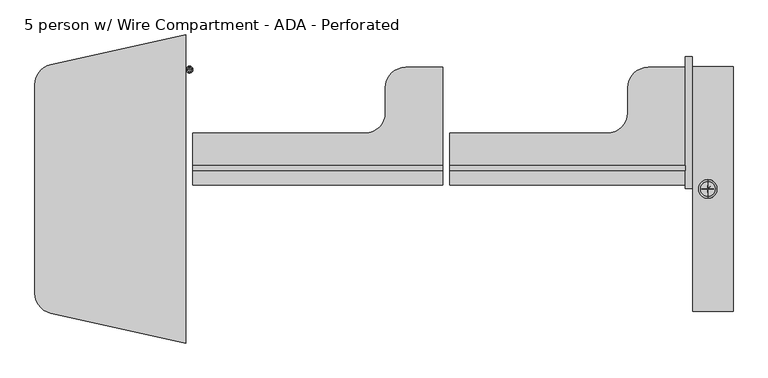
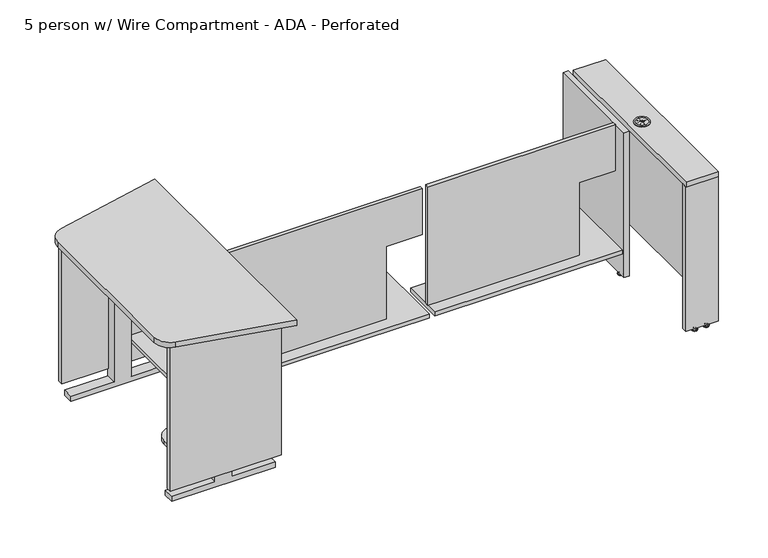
"""IFC4 building model written with IfcOpenShell, lengths in millimetres: furniture geometry, Nova Solutions - Collaboration Table - Boat_4-6 person : 5 person w/ Wire Compartment - ADA - Perforated."""

from ifc_helpers import new_model, si_unit, point, frame, frame_2d, origin, place, context, project, spatial, polyline, circle_curve, ellipse_curve, trimmed, segment, composite_curve, outline, extrude, source, transform, mapped, element, save
from ifc_brep_helpers import plane_surface, cylinder_surface, revolved_surface, advanced_brep


def furniture_5_person_w_wire_compartment_ada_perforated_2b3411b6(model_context):
    return source(origin(), model_context, "Body", "SolidModel", [
        extrude(outline(polyline([(0.0, -999.3498676), (25.4, -999.3498676), (25.4, -1203.2998676), (671.5176566, -1203.2998676), (671.5176566, -1283.2998676), (25.4, -1283.2998676), (25.4, -1487.2498676), (0.0, -1487.2498676), (0.0, -999.3498676)])), frame((0.0, 385.9, 0.0), z_axis=(0.0, 1.0, 0.0), x_axis=(0.0, 0.0, 1.0)), (0.0, 0.0, 1.0), 50.8),
        extrude(outline(polyline([(0.0, -999.3498676), (25.4, -999.3498676), (25.4, -1203.2998676), (671.5176566, -1203.2998676), (671.5176566, -1283.2998676), (25.4, -1283.2998676), (25.4, -1487.2498676), (0.0, -1487.2498676), (0.0, -999.3498676)])), frame((0.0, -436.7, 0.0), z_axis=(0.0, 1.0, 0.0), x_axis=(0.0, 0.0, 1.0)), (0.0, 0.0, 1.0), 50.8),
        extrude(outline(polyline([(430.1, 787.1), (430.1, 196.3), (-259.1, 196.3), (-259.1, 558.2), (-430.1, 558.2), (-430.1, 787.1), (430.1, 787.1)])), frame((-1069.3498676, 0.0, 0.0), z_axis=(1.0, 0.0, 0.0), x_axis=(0.0, 1.0, 0.0)), (0.0, 0.0, 1.0), 19.2),
        extrude(outline(composite_curve([segment(polyline([(-994.8498676, 430.1), (-994.8498676, -430.1), (-1438.0123676, -430.1), (-1438.0123676, -290.3)]), True, "CONTINUOUS"), segment(trimmed(circle_curve(frame_2d((-1361.8123676, -290.3)), 76.2), [point((-1438.0123676, -290.3))], [point((-1361.8123676, -214.1))], False, "CARTESIAN"), True, "CONTINUOUS"), segment(polyline([(-1361.8123676, -214.1), (-1267.3498676, -214.1)]), True, "CONTINUOUS"), segment(trimmed(circle_curve(frame_2d((-1267.3498676, -137.9)), 76.2), [point((-1267.3498676, -214.1))], [point((-1191.1498676, -137.9))], True, "CARTESIAN"), True, "CONTINUOUS"), segment(polyline([(-1191.1498676, -137.9), (-1191.1498676, 430.1), (-994.8498676, 430.1)]), True, "CONTINUOUS")], self_intersect=False)), frame((0.0, 0.0, 177.1), z_axis=(0.0, 0.0, 1.0), x_axis=(1.0, 0.0, 0.0)), (0.0, 0.0, 1.0), 19.2),
        extrude(outline(polyline([(-982.1498676, 455.8), (-982.1498676, 430.1), (-1504.4498676, 430.1), (-1504.4498676, 455.8), (-982.1498676, 455.8)])), frame((0.0, 0.0, 66.4), z_axis=(0.0, 0.0, 1.0), x_axis=(1.0, 0.0, 0.0)), (0.0, 0.0, 1.0), 720.7),
        extrude(outline(polyline([(-982.1498676, -455.8), (-1504.4498676, -455.8), (-1504.4498676, -430.1), (-982.1498676, -430.1), (-982.1498676, -455.8)])), frame((0.0, 0.0, 66.4), z_axis=(0.0, 0.0, 1.0), x_axis=(1.0, 0.0, 0.0)), (0.0, 0.0, 1.0), 720.7),
        extrude(outline(composite_curve([segment(polyline([(-979.2498676, 579.5), (-979.2498676, -579.5), (-1484.9157179, -467.3965799)]), True, "CONTINUOUS"), segment(trimmed(circle_curve(frame_2d((-1468.2498676, -392.2217874)), 77.0), [point((-1484.9157179, -467.3965799))], [point((-1545.2498676, -392.2217874))], False, "CARTESIAN"), True, "CONTINUOUS"), segment(polyline([(-1545.2498676, -392.2217874), (-1545.2498676, 392.2217874)]), True, "CONTINUOUS"), segment(trimmed(circle_curve(frame_2d((-1468.2498676, 392.2217874)), 77.0), [point((-1545.2498676, 392.2217874))], [point((-1484.9157179, 467.3965799))], False, "CARTESIAN"), True, "CONTINUOUS"), segment(polyline([(-1484.9157179, 467.3965799), (-979.2498676, 579.5)]), True, "CONTINUOUS")], self_intersect=False)), frame((0.0, 0.0, 787.1), z_axis=(0.0, 0.0, 1.0), x_axis=(1.0, 0.0, 0.0)), (0.0, 0.0, 1.0), 25.7),
        advanced_brep(
        [(981.65, -34.925, 762.0), (981.65, 34.925, 762.0), (981.65, 24.6435157, 762.0), (980.503542, 2.7677944, 762.0), (964.2244029, 17.4255971, 762.0), (978.8822056, 1.146458, 762.0), (957.0064843, 0.0, 762.0), (978.8822056, -1.146458, 762.0), (964.2244029, -17.4255971, 762.0), (980.503542, -2.7677944, 762.0), (981.65, -24.6435157, 762.0), (982.796458, -2.7677944, 762.0), (999.0755971, -17.4255971, 762.0), (984.4177944, -1.146458, 762.0), (1006.2935157, 0.0, 762.0), (984.4177944, 1.146458, 762.0), (999.0755971, 17.4255971, 762.0), (982.796458, 2.7677944, 762.0), (981.65, -34.925, 763.3787817), (981.65, 34.925, 763.3787817), (981.65, -28.7119174, 765.175), (981.65, 28.7119174, 765.175), (981.65, -24.6435157, 765.175), (980.503542, -2.7677944, 765.175), (964.2244029, -17.4255971, 765.175), (978.8822056, -1.146458, 765.175), (957.0064843, 0.0, 765.175), (978.8822056, 1.146458, 765.175), (964.2244029, 17.4255971, 765.175), (980.503542, 2.7677944, 765.175), (981.65, 24.6435157, 765.175), (982.796458, 2.7677944, 765.175), (999.0755971, 17.4255971, 765.175), (984.4177944, 1.146458, 765.175), (1006.2935157, 0.0, 765.175), (984.4177944, -1.146458, 765.175), (999.0755971, -17.4255971, 765.175), (982.796458, -2.7677944, 765.175)],
        [
            (0, 1, circle_curve(frame((981.65, 0.0, 762.0), z_axis=(0.0, 0.0, -1.0), x_axis=(0.0, 1.0, 0.0)), 34.925)),
            (1, 2),
            (2, 3),
            (3, 4),
            (4, 5),
            (5, 6),
            (6, 7),
            (7, 8),
            (8, 9),
            (9, 10),
            (10, 0),
            (1, 0, circle_curve(frame((981.65, 0.0, 762.0), z_axis=(0.0, 0.0, -1.0), x_axis=(0.0, 1.0, 0.0)), 34.925)),
            (10, 11),
            (11, 12),
            (12, 13),
            (13, 14),
            (14, 15),
            (15, 16),
            (16, 17),
            (17, 2),
            (0, 18),
            (18, 19, circle_curve(frame((981.65, 0.0, 763.3787817), z_axis=(0.0, 0.0, -1.0), x_axis=(0.0, 1.0, 0.0)), 34.925)),
            (19, 1),
            (19, 18, circle_curve(frame((981.65, 0.0, 763.3787817), z_axis=(0.0, 0.0, -1.0), x_axis=(0.0, 1.0, 0.0)), 34.925)),
            (18, 20, circle_curve(frame((981.65, -31.558813, 763.3787817), z_axis=(-1.0, 0.0, 0.0), x_axis=(0.0, -1.0, 0.0)), 3.366187)),
            (20, 21, circle_curve(frame((981.65, 0.0, 765.175), z_axis=(0.0, 0.0, -1.0), x_axis=(0.0, 1.0, 0.0)), 28.7119174)),
            (21, 19, circle_curve(frame((981.65, 31.558813, 763.3787817), z_axis=(-1.0, 0.0, 0.0), x_axis=(0.0, 1.0, 0.0)), 3.366187)),
            (21, 20, circle_curve(frame((981.65, 0.0, 765.175), z_axis=(0.0, 0.0, -1.0), x_axis=(0.0, 1.0, 0.0)), 28.7119174)),
            (20, 22),
            (22, 23),
            (23, 24),
            (24, 25),
            (25, 26),
            (26, 27),
            (27, 28),
            (28, 29),
            (29, 30),
            (30, 21),
            (30, 31),
            (31, 32),
            (32, 33),
            (33, 34),
            (34, 35),
            (35, 36),
            (36, 37),
            (37, 22),
            (26, 6),
            (5, 27),
            (25, 7),
            (24, 8),
            (23, 9),
            (22, 10),
            (37, 11),
            (36, 12),
            (35, 13),
            (34, 14),
            (33, 15),
            (32, 16),
            (31, 17),
            (30, 2),
            (29, 3),
            (28, 4),
        ],
        [
            plane_surface(frame((981.65, 0.0, 762.0), z_axis=(0.0, 0.0, -1.0), x_axis=(0.0, 1.0, 0.0))),
            cylinder_surface(frame((981.65, 0.0, 850.9), z_axis=(0.0, 0.0, 1.0), x_axis=(0.0, 1.0, 0.0)), 34.925),
            revolved_surface(trimmed(ellipse_curve(frame((981.65, 31.558813, 763.3787817), z_axis=(1.0, 0.0, 0.0), x_axis=(0.0, 1.0, 0.0)), 3.366187, 3.366187), [point((981.65, 34.925, 763.3787817))], [point((981.65, 28.7119174, 765.175))], True, "CARTESIAN"), (981.65, 0.0, 850.9), (0.0, 0.0, 1.0)),
            plane_surface(frame((981.65, 0.0, 765.175), z_axis=(0.0, 0.0, 1.0), x_axis=(0.0, 1.0, 0.0))),
            plane_surface(frame((981.65, 1.2915119, 787.4), z_axis=(0.05233595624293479, -0.9986295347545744, 0.0), x_axis=(0.0, 0.0, -1.0))),
            plane_surface(frame((957.0064843, 0.0, 787.4), z_axis=(0.052335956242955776, 0.9986295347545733, 0.0), x_axis=(0.0, 0.0, -1.0))),
            plane_surface(frame((980.7367632, 0.9132368, 787.4), z_axis=(0.7431448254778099, -0.6691306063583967, 0.0), x_axis=(0.0, 0.0, -1.0))),
            plane_surface(frame((964.2244029, -17.4255971, 787.4), z_axis=(-0.6691306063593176, 0.7431448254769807, 0.0), x_axis=(0.0, 0.0, -1.0))),
            plane_surface(frame((980.3584881, 0.0, 787.4), z_axis=(0.9986295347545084, 0.05233595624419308, 0.0), x_axis=(0.0, 0.0, -1.0))),
            plane_surface(frame((981.65, -24.6435157, 787.4), z_axis=(-0.9986295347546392, 0.05233595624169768, 0.0), x_axis=(0.0, 0.0, -1.0))),
            plane_surface(frame((980.7367632, -0.9132368, 787.4), z_axis=(0.6691306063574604, 0.743144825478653, 0.0), x_axis=(0.0, 0.0, -1.0))),
            plane_surface(frame((999.0755971, -17.4255971, 787.4), z_axis=(-0.7431448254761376, -0.669130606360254, 0.0), x_axis=(0.0, 0.0, -1.0))),
            plane_surface(frame((981.65, -1.2915119, 787.4), z_axis=(-0.052335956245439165, 0.9986295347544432, 0.0), x_axis=(0.0, 0.0, -1.0))),
            plane_surface(frame((1006.2935157, 0.0, 787.4), z_axis=(-0.05233595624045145, -0.9986295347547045, 0.0), x_axis=(0.0, 0.0, -1.0))),
            plane_surface(frame((982.5632368, -0.9132368, 787.4), z_axis=(-0.7431448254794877, 0.6691306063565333, 0.0), x_axis=(0.0, 0.0, -1.0))),
            plane_surface(frame((999.0755971, 17.4255971, 787.4), z_axis=(0.669130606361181, -0.7431448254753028, 0.0), x_axis=(0.0, 0.0, -1.0))),
            plane_surface(frame((982.9415119, 0.0, 787.4), z_axis=(-0.9986295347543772, -0.05233595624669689, 0.0), x_axis=(0.0, 0.0, -1.0))),
            plane_surface(frame((981.65, 24.6435157, 787.4), z_axis=(0.9986295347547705, -0.05233595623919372, 0.0), x_axis=(0.0, 0.0, -1.0))),
            plane_surface(frame((982.5632368, 0.9132368, 787.4), z_axis=(-0.6691306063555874, -0.7431448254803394, 0.0), x_axis=(0.0, 0.0, -1.0))),
            plane_surface(frame((964.2244029, 17.4255971, 787.4), z_axis=(0.743144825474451, 0.669130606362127, 0.0), x_axis=(0.0, 0.0, -1.0))),
        ],
        [
            (0, [[1, 2, 3, 4, 5, 6, 7, 8, 9, 10, 11]]),
            (0, [[12, -11, 13, 14, 15, 16, 17, 18, 19, 20, -2]]),
            (1, [[-1, 21, 22, 23]]),
            (1, [[-12, -23, 24, -21]]),
            (2, [[-22, 25, 26, 27]]),
            (2, [[-24, -27, 28, -25]]),
            (3, [[-26, 29, 30, 31, 32, 33, 34, 35, 36, 37, 38]]),
            (3, [[-28, -38, 39, 40, 41, 42, 43, 44, 45, 46, -29]]),
            (4, [[47, -6, 48, -34]]),
            (5, [[-47, -33, 49, -7]]),
            (6, [[50, -8, -49, -32]]),
            (7, [[-50, -31, 51, -9]]),
            (8, [[52, -10, -51, -30]]),
            (9, [[-52, -46, 53, -13]]),
            (10, [[54, -14, -53, -45]]),
            (11, [[-54, -44, 55, -15]]),
            (12, [[56, -16, -55, -43]]),
            (13, [[-56, -42, 57, -17]]),
            (14, [[58, -18, -57, -41]]),
            (15, [[-58, -40, 59, -19]]),
            (16, [[60, -20, -59, -39]]),
            (17, [[-60, -37, 61, -3]]),
            (18, [[62, -4, -61, -36]]),
            (19, [[-62, -35, -48, -5]]),
        ],
    ),
        advanced_brep(
        [(1027.6359375, 451.0276506, 11.1125), (1027.6359375, 437.6723494, 11.1125), (1027.6359375, 444.35, 11.1125), (1027.6359375, 451.0276506, 9.525), (1027.6359375, 437.6723494, 9.525), (1027.6359375, 456.2355135, 4.7748687), (1027.6359375, 432.4644865, 4.7748687), (1027.6359375, 457.0966506, 3.989419), (1027.6359375, 431.6033494, 3.989419), (1027.6359375, 457.0966506, 3.175), (1027.6359375, 431.6033494, 3.175), (1027.6359375, 456.2459119, 0.0), (1027.6359375, 432.4540881, 0.0), (1027.6359375, 444.35, 0.0)],
        [
            (0, 1, circle_curve(frame((1027.6359375, 444.35, 11.1125), z_axis=(0.0, 0.0, 1.0), x_axis=(0.0, -1.0, 0.0)), 6.6776506)),
            (1, 2),
            (2, 0),
            (1, 0, circle_curve(frame((1027.6359375, 444.35, 11.1125), z_axis=(0.0, 0.0, 1.0), x_axis=(0.0, -1.0, 0.0)), 6.6776506)),
            (3, 4, circle_curve(frame((1027.6359375, 444.35, 9.525), z_axis=(0.0, 0.0, 1.0), x_axis=(0.0, -1.0, 0.0)), 6.6776506)),
            (4, 1),
            (0, 3),
            (4, 3, circle_curve(frame((1027.6359375, 444.35, 9.525), z_axis=(0.0, 0.0, 1.0), x_axis=(0.0, -1.0, 0.0)), 6.6776506)),
            (5, 6, circle_curve(frame((1027.6359375, 444.35, 4.7748687), z_axis=(0.0, 0.0, 1.0), x_axis=(0.0, -1.0, 0.0)), 11.8855135)),
            (6, 4, circle_curve(frame((1027.6359375, 431.4179373, 11.1521822), z_axis=(1.0, 0.0, 0.0), x_axis=(0.0, 1.0, 0.0)), 6.462615)),
            (3, 5, circle_curve(frame((1027.6359375, 457.2820627, 11.1521822), z_axis=(1.0, 0.0, 0.0), x_axis=(0.0, -1.0, 0.0)), 6.462615)),
            (6, 5, circle_curve(frame((1027.6359375, 444.35, 4.7748687), z_axis=(0.0, 0.0, 1.0), x_axis=(0.0, -1.0, 0.0)), 11.8855135)),
            (7, 8, circle_curve(frame((1027.6359375, 444.35, 3.989419), z_axis=(0.0, 0.0, 1.0), x_axis=(0.0, -1.0, 0.0)), 12.7466506)),
            (8, 6, circle_curve(frame((1027.6359375, 432.6375368, 3.7203591), z_axis=(-1.0, 0.0, 0.0), x_axis=(0.0, 1.0, 0.0)), 1.0686145)),
            (5, 7, circle_curve(frame((1027.6359375, 456.0624632, 3.7203591), z_axis=(-1.0, 0.0, 0.0), x_axis=(0.0, -1.0, 0.0)), 1.0686145)),
            (8, 7, circle_curve(frame((1027.6359375, 444.35, 3.989419), z_axis=(0.0, 0.0, 1.0), x_axis=(0.0, -1.0, 0.0)), 12.7466506)),
            (9, 10, circle_curve(frame((1027.6359375, 444.35, 3.175), z_axis=(0.0, 0.0, 1.0), x_axis=(0.0, -1.0, 0.0)), 12.7466506)),
            (10, 8),
            (7, 9),
            (10, 9, circle_curve(frame((1027.6359375, 444.35, 3.175), z_axis=(0.0, 0.0, 1.0), x_axis=(0.0, -1.0, 0.0)), 12.7466506)),
            (11, 12, circle_curve(frame((1027.6359375, 444.35, 0.0), z_axis=(0.0, 0.0, 1.0), x_axis=(0.0, -1.0, 0.0)), 11.8959119)),
            (12, 10),
            (9, 11),
            (12, 11, circle_curve(frame((1027.6359375, 444.35, 0.0), z_axis=(0.0, 0.0, 1.0), x_axis=(0.0, -1.0, 0.0)), 11.8959119)),
            (13, 12),
            (11, 13),
        ],
        [
            plane_surface(frame((1027.6359375, 444.35, 11.1125), z_axis=(0.0, 0.0, 1.0), x_axis=(0.0, -1.0, 0.0))),
            cylinder_surface(frame((1027.6359375, 444.35, 43.2095994), z_axis=(0.0, 0.0, -1.0), x_axis=(0.0, -1.0, 0.0)), 6.6776506),
            revolved_surface(trimmed(ellipse_curve(frame((1027.6359375, 431.4179373, 11.1521822), z_axis=(-1.0, 0.0, 0.0), x_axis=(0.0, 1.0, 0.0)), 6.462615, 6.462615), [point((1027.6359375, 437.6723494, 9.525))], [point((1027.6359375, 432.4644865, 4.7748687))], True, "CARTESIAN"), (1027.6359375, 444.35, 43.2095994), (0.0, 0.0, -1.0)),
            revolved_surface(trimmed(ellipse_curve(frame((1027.6359375, 432.6375368, 3.7203591), z_axis=(1.0, 0.0, 0.0), x_axis=(0.0, 1.0, 0.0)), 1.0686145, 1.0686145), [point((1027.6359375, 432.4644865, 4.7748687))], [point((1027.6359375, 431.6033494, 3.989419))], True, "CARTESIAN"), (1027.6359375, 444.35, 43.2095994), (0.0, 0.0, -1.0)),
            cylinder_surface(frame((1027.6359375, 444.35, 43.2095994), z_axis=(0.0, 0.0, -1.0), x_axis=(0.0, -1.0, 0.0)), 12.7466506),
            revolved_surface(polyline([(1027.6359375, 431.6033494, 3.175), (1027.6359375, 432.4540881, 0.0)]), (1027.6359375, 444.35, 43.2095994), (0.0, 0.0, -1.0)),
            plane_surface(frame((1027.6359375, 444.35, 0.0), z_axis=(0.0, 0.0, -1.0), x_axis=(0.0, -1.0, 0.0))),
        ],
        [
            (0, [[1, 2, 3]]),
            (0, [[4, -3, -2]]),
            (1, [[5, 6, -1, 7]]),
            (1, [[8, -7, -4, -6]]),
            (2, [[9, 10, -5, 11]]),
            (2, [[12, -11, -8, -10]]),
            (3, [[13, 14, -9, 15]]),
            (3, [[16, -15, -12, -14]]),
            (4, [[17, 18, -13, 19]]),
            (4, [[20, -19, -16, -18]]),
            (5, [[21, 22, -17, 23]]),
            (5, [[24, -23, -20, -22]]),
            (6, [[25, -21, 26]]),
            (6, [[-26, -24, -25]]),
        ],
    ),
        advanced_brep(
        [(973.2640625, 451.0276506, 11.1125), (973.2640625, 437.6723494, 11.1125), (973.2640625, 444.35, 11.1125), (973.2640625, 451.0276506, 9.525), (973.2640625, 437.6723494, 9.525), (973.2640625, 456.2355135, 4.7748687), (973.2640625, 432.4644865, 4.7748687), (973.2640625, 457.0966506, 3.989419), (973.2640625, 431.6033494, 3.989419), (973.2640625, 457.0966506, 3.175), (973.2640625, 431.6033494, 3.175), (973.2640625, 456.2459119, 0.0), (973.2640625, 432.4540881, 0.0), (973.2640625, 444.35, 0.0)],
        [
            (0, 1, circle_curve(frame((973.2640625, 444.35, 11.1125), z_axis=(0.0, 0.0, 1.0), x_axis=(0.0, -1.0, 0.0)), 6.6776506)),
            (1, 2),
            (2, 0),
            (1, 0, circle_curve(frame((973.2640625, 444.35, 11.1125), z_axis=(0.0, 0.0, 1.0), x_axis=(0.0, -1.0, 0.0)), 6.6776506)),
            (3, 4, circle_curve(frame((973.2640625, 444.35, 9.525), z_axis=(0.0, 0.0, 1.0), x_axis=(0.0, -1.0, 0.0)), 6.6776506)),
            (4, 1),
            (0, 3),
            (4, 3, circle_curve(frame((973.2640625, 444.35, 9.525), z_axis=(0.0, 0.0, 1.0), x_axis=(0.0, -1.0, 0.0)), 6.6776506)),
            (5, 6, circle_curve(frame((973.2640625, 444.35, 4.7748687), z_axis=(0.0, 0.0, 1.0), x_axis=(0.0, -1.0, 0.0)), 11.8855135)),
            (6, 4, circle_curve(frame((973.2640625, 431.4179373, 11.1521822), z_axis=(1.0, 0.0, 0.0), x_axis=(0.0, 1.0, 0.0)), 6.462615)),
            (3, 5, circle_curve(frame((973.2640625, 457.2820627, 11.1521822), z_axis=(1.0, 0.0, 0.0), x_axis=(0.0, -1.0, 0.0)), 6.462615)),
            (6, 5, circle_curve(frame((973.2640625, 444.35, 4.7748687), z_axis=(0.0, 0.0, 1.0), x_axis=(0.0, -1.0, 0.0)), 11.8855135)),
            (7, 8, circle_curve(frame((973.2640625, 444.35, 3.989419), z_axis=(0.0, 0.0, 1.0), x_axis=(0.0, -1.0, 0.0)), 12.7466506)),
            (8, 6, circle_curve(frame((973.2640625, 432.6375368, 3.7203591), z_axis=(-1.0, 0.0, 0.0), x_axis=(0.0, 1.0, 0.0)), 1.0686145)),
            (5, 7, circle_curve(frame((973.2640625, 456.0624632, 3.7203591), z_axis=(-1.0, 0.0, 0.0), x_axis=(0.0, -1.0, 0.0)), 1.0686145)),
            (8, 7, circle_curve(frame((973.2640625, 444.35, 3.989419), z_axis=(0.0, 0.0, 1.0), x_axis=(0.0, -1.0, 0.0)), 12.7466506)),
            (9, 10, circle_curve(frame((973.2640625, 444.35, 3.175), z_axis=(0.0, 0.0, 1.0), x_axis=(0.0, -1.0, 0.0)), 12.7466506)),
            (10, 8),
            (7, 9),
            (10, 9, circle_curve(frame((973.2640625, 444.35, 3.175), z_axis=(0.0, 0.0, 1.0), x_axis=(0.0, -1.0, 0.0)), 12.7466506)),
            (11, 12, circle_curve(frame((973.2640625, 444.35, 0.0), z_axis=(0.0, 0.0, 1.0), x_axis=(0.0, -1.0, 0.0)), 11.8959119)),
            (12, 10),
            (9, 11),
            (12, 11, circle_curve(frame((973.2640625, 444.35, 0.0), z_axis=(0.0, 0.0, 1.0), x_axis=(0.0, -1.0, 0.0)), 11.8959119)),
            (13, 12),
            (11, 13),
        ],
        [
            plane_surface(frame((973.2640625, 444.35, 11.1125), z_axis=(0.0, 0.0, 1.0), x_axis=(0.0, -1.0, 0.0))),
            cylinder_surface(frame((973.2640625, 444.35, 43.2095994), z_axis=(0.0, 0.0, -1.0), x_axis=(0.0, -1.0, 0.0)), 6.6776506),
            revolved_surface(trimmed(ellipse_curve(frame((973.2640625, 431.4179373, 11.1521822), z_axis=(-1.0, 0.0, 0.0), x_axis=(0.0, 1.0, 0.0)), 6.462615, 6.462615), [point((973.2640625, 437.6723494, 9.525))], [point((973.2640625, 432.4644865, 4.7748687))], True, "CARTESIAN"), (973.2640625, 444.35, 43.2095994), (0.0, 0.0, -1.0)),
            revolved_surface(trimmed(ellipse_curve(frame((973.2640625, 432.6375368, 3.7203591), z_axis=(1.0, 0.0, 0.0), x_axis=(0.0, 1.0, 0.0)), 1.0686145, 1.0686145), [point((973.2640625, 432.4644865, 4.7748687))], [point((973.2640625, 431.6033494, 3.989419))], True, "CARTESIAN"), (973.2640625, 444.35, 43.2095994), (0.0, 0.0, -1.0)),
            cylinder_surface(frame((973.2640625, 444.35, 43.2095994), z_axis=(0.0, 0.0, -1.0), x_axis=(0.0, -1.0, 0.0)), 12.7466506),
            revolved_surface(polyline([(973.2640625, 431.6033494, 3.175), (973.2640625, 432.4540881, 0.0)]), (973.2640625, 444.35, 43.2095994), (0.0, 0.0, -1.0)),
            plane_surface(frame((973.2640625, 444.35, 0.0), z_axis=(0.0, 0.0, -1.0), x_axis=(0.0, -1.0, 0.0))),
        ],
        [
            (0, [[1, 2, 3]]),
            (0, [[4, -3, -2]]),
            (1, [[5, 6, -1, 7]]),
            (1, [[8, -7, -4, -6]]),
            (2, [[9, 10, -5, 11]]),
            (2, [[12, -11, -8, -10]]),
            (3, [[13, 14, -9, 15]]),
            (3, [[16, -15, -12, -14]]),
            (4, [[17, 18, -13, 19]]),
            (4, [[20, -19, -16, -18]]),
            (5, [[21, 22, -17, 23]]),
            (5, [[24, -23, -20, -22]]),
            (6, [[25, -21, 26]]),
            (6, [[-26, -24, -25]]),
        ],
    ),
        extrude(outline(polyline([(924.25, 457.2), (1076.65, 457.2), (1076.65, 431.5), (924.25, 431.5), (924.25, 457.2)])), frame((0.0, 0.0, 15.6), z_axis=(0.0, 0.0, 1.0), x_axis=(1.0, 0.0, 0.0)), (0.0, 0.0, 1.0), 720.7),
        advanced_brep(
        [(1027.6359375, -451.0276506, 11.1125), (1027.6359375, -444.35, 11.1125), (1027.6359375, -437.6723494, 11.1125), (1027.6359375, -451.0276506, 9.525), (1027.6359375, -437.6723494, 9.525), (1027.6359375, -456.2355135, 4.7748687), (1027.6359375, -432.4644865, 4.7748687), (1027.6359375, -457.0966506, 3.989419), (1027.6359375, -431.6033494, 3.989419), (1027.6359375, -457.0966506, 3.175), (1027.6359375, -431.6033494, 3.175), (1027.6359375, -456.2459119, 0.0), (1027.6359375, -432.4540881, 0.0), (1027.6359375, -444.35, 0.0)],
        [
            (0, 1),
            (1, 2),
            (2, 0, circle_curve(frame((1027.6359375, -444.35, 11.1125), z_axis=(0.0, 0.0, 1.0), x_axis=(0.0, 1.0, 0.0)), 6.6776506)),
            (0, 2, circle_curve(frame((1027.6359375, -444.35, 11.1125), z_axis=(0.0, 0.0, 1.0), x_axis=(0.0, 1.0, 0.0)), 6.6776506)),
            (3, 0),
            (2, 4),
            (4, 3, circle_curve(frame((1027.6359375, -444.35, 9.525), z_axis=(0.0, 0.0, 1.0), x_axis=(0.0, 1.0, 0.0)), 6.6776506)),
            (3, 4, circle_curve(frame((1027.6359375, -444.35, 9.525), z_axis=(0.0, 0.0, 1.0), x_axis=(0.0, 1.0, 0.0)), 6.6776506)),
            (5, 3, circle_curve(frame((1027.6359375, -457.2820627, 11.1521822), z_axis=(1.0, 0.0, 0.0), x_axis=(0.0, 1.0, 0.0)), 6.462615)),
            (4, 6, circle_curve(frame((1027.6359375, -431.4179373, 11.1521822), z_axis=(1.0, 0.0, 0.0), x_axis=(0.0, -1.0, 0.0)), 6.462615)),
            (6, 5, circle_curve(frame((1027.6359375, -444.35, 4.7748687), z_axis=(0.0, 0.0, 1.0), x_axis=(0.0, 1.0, 0.0)), 11.8855135)),
            (5, 6, circle_curve(frame((1027.6359375, -444.35, 4.7748687), z_axis=(0.0, 0.0, 1.0), x_axis=(0.0, 1.0, 0.0)), 11.8855135)),
            (7, 5, circle_curve(frame((1027.6359375, -456.0624632, 3.7203591), z_axis=(-1.0, 0.0, 0.0), x_axis=(0.0, 1.0, 0.0)), 1.0686145)),
            (6, 8, circle_curve(frame((1027.6359375, -432.6375368, 3.7203591), z_axis=(-1.0, 0.0, 0.0), x_axis=(0.0, -1.0, 0.0)), 1.0686145)),
            (8, 7, circle_curve(frame((1027.6359375, -444.35, 3.989419), z_axis=(0.0, 0.0, 1.0), x_axis=(0.0, 1.0, 0.0)), 12.7466506)),
            (7, 8, circle_curve(frame((1027.6359375, -444.35, 3.989419), z_axis=(0.0, 0.0, 1.0), x_axis=(0.0, 1.0, 0.0)), 12.7466506)),
            (9, 7),
            (8, 10),
            (10, 9, circle_curve(frame((1027.6359375, -444.35, 3.175), z_axis=(0.0, 0.0, 1.0), x_axis=(0.0, 1.0, 0.0)), 12.7466506)),
            (9, 10, circle_curve(frame((1027.6359375, -444.35, 3.175), z_axis=(0.0, 0.0, 1.0), x_axis=(0.0, 1.0, 0.0)), 12.7466506)),
            (11, 9),
            (10, 12),
            (12, 11, circle_curve(frame((1027.6359375, -444.35, 0.0), z_axis=(0.0, 0.0, 1.0), x_axis=(0.0, 1.0, 0.0)), 11.8959119)),
            (11, 12, circle_curve(frame((1027.6359375, -444.35, 0.0), z_axis=(0.0, 0.0, 1.0), x_axis=(0.0, 1.0, 0.0)), 11.8959119)),
            (13, 11),
            (12, 13),
        ],
        [
            plane_surface(frame((1027.6359375, -444.35, 11.1125), z_axis=(0.0, 0.0, 1.0), x_axis=(0.0, 1.0, 0.0))),
            cylinder_surface(frame((1027.6359375, -444.35, 43.2095994), z_axis=(0.0, 0.0, -1.0), x_axis=(0.0, 1.0, 0.0)), 6.6776506),
            revolved_surface(trimmed(ellipse_curve(frame((1027.6359375, -431.4179373, 11.1521822), z_axis=(1.0, 0.0, 0.0), x_axis=(0.0, -1.0, 0.0)), 6.462615, 6.462615), [point((1027.6359375, -437.6723494, 9.525))], [point((1027.6359375, -432.4644865, 4.7748687))], True, "CARTESIAN"), (1027.6359375, -444.35, 43.2095994), (0.0, 0.0, -1.0)),
            revolved_surface(trimmed(ellipse_curve(frame((1027.6359375, -432.6375368, 3.7203591), z_axis=(-1.0, 0.0, 0.0), x_axis=(0.0, -1.0, 0.0)), 1.0686145, 1.0686145), [point((1027.6359375, -432.4644865, 4.7748687))], [point((1027.6359375, -431.6033494, 3.989419))], True, "CARTESIAN"), (1027.6359375, -444.35, 43.2095994), (0.0, 0.0, -1.0)),
            cylinder_surface(frame((1027.6359375, -444.35, 43.2095994), z_axis=(0.0, 0.0, -1.0), x_axis=(0.0, 1.0, 0.0)), 12.7466506),
            revolved_surface(polyline([(1027.6359375, -431.6033494, 3.175), (1027.6359375, -432.4540881, 0.0)]), (1027.6359375, -444.35, 43.2095994), (0.0, 0.0, -1.0)),
            plane_surface(frame((1027.6359375, -444.35, 0.0), z_axis=(0.0, 0.0, -1.0), x_axis=(0.0, 1.0, 0.0))),
        ],
        [
            (0, [[1, 2, 3]]),
            (0, [[-2, -1, 4]]),
            (1, [[5, -3, 6, 7]]),
            (1, [[-6, -4, -5, 8]]),
            (2, [[9, -7, 10, 11]]),
            (2, [[-10, -8, -9, 12]]),
            (3, [[13, -11, 14, 15]]),
            (3, [[-14, -12, -13, 16]]),
            (4, [[17, -15, 18, 19]]),
            (4, [[-18, -16, -17, 20]]),
            (5, [[21, -19, 22, 23]]),
            (5, [[-22, -20, -21, 24]]),
            (6, [[25, -23, 26]]),
            (6, [[-26, -24, -25]]),
        ],
    ),
        advanced_brep(
        [(973.2640625, -451.0276506, 11.1125), (973.2640625, -444.35, 11.1125), (973.2640625, -437.6723494, 11.1125), (973.2640625, -451.0276506, 9.525), (973.2640625, -437.6723494, 9.525), (973.2640625, -456.2355135, 4.7748687), (973.2640625, -432.4644865, 4.7748687), (973.2640625, -457.0966506, 3.989419), (973.2640625, -431.6033494, 3.989419), (973.2640625, -457.0966506, 3.175), (973.2640625, -431.6033494, 3.175), (973.2640625, -456.2459119, 0.0), (973.2640625, -432.4540881, 0.0), (973.2640625, -444.35, 0.0)],
        [
            (0, 1),
            (1, 2),
            (2, 0, circle_curve(frame((973.2640625, -444.35, 11.1125), z_axis=(0.0, 0.0, 1.0), x_axis=(0.0, 1.0, 0.0)), 6.6776506)),
            (0, 2, circle_curve(frame((973.2640625, -444.35, 11.1125), z_axis=(0.0, 0.0, 1.0), x_axis=(0.0, 1.0, 0.0)), 6.6776506)),
            (3, 0),
            (2, 4),
            (4, 3, circle_curve(frame((973.2640625, -444.35, 9.525), z_axis=(0.0, 0.0, 1.0), x_axis=(0.0, 1.0, 0.0)), 6.6776506)),
            (3, 4, circle_curve(frame((973.2640625, -444.35, 9.525), z_axis=(0.0, 0.0, 1.0), x_axis=(0.0, 1.0, 0.0)), 6.6776506)),
            (5, 3, circle_curve(frame((973.2640625, -457.2820627, 11.1521822), z_axis=(1.0, 0.0, 0.0), x_axis=(0.0, 1.0, 0.0)), 6.462615)),
            (4, 6, circle_curve(frame((973.2640625, -431.4179373, 11.1521822), z_axis=(1.0, 0.0, 0.0), x_axis=(0.0, -1.0, 0.0)), 6.462615)),
            (6, 5, circle_curve(frame((973.2640625, -444.35, 4.7748687), z_axis=(0.0, 0.0, 1.0), x_axis=(0.0, 1.0, 0.0)), 11.8855135)),
            (5, 6, circle_curve(frame((973.2640625, -444.35, 4.7748687), z_axis=(0.0, 0.0, 1.0), x_axis=(0.0, 1.0, 0.0)), 11.8855135)),
            (7, 5, circle_curve(frame((973.2640625, -456.0624632, 3.7203591), z_axis=(-1.0, 0.0, 0.0), x_axis=(0.0, 1.0, 0.0)), 1.0686145)),
            (6, 8, circle_curve(frame((973.2640625, -432.6375368, 3.7203591), z_axis=(-1.0, 0.0, 0.0), x_axis=(0.0, -1.0, 0.0)), 1.0686145)),
            (8, 7, circle_curve(frame((973.2640625, -444.35, 3.989419), z_axis=(0.0, 0.0, 1.0), x_axis=(0.0, 1.0, 0.0)), 12.7466506)),
            (7, 8, circle_curve(frame((973.2640625, -444.35, 3.989419), z_axis=(0.0, 0.0, 1.0), x_axis=(0.0, 1.0, 0.0)), 12.7466506)),
            (9, 7),
            (8, 10),
            (10, 9, circle_curve(frame((973.2640625, -444.35, 3.175), z_axis=(0.0, 0.0, 1.0), x_axis=(0.0, 1.0, 0.0)), 12.7466506)),
            (9, 10, circle_curve(frame((973.2640625, -444.35, 3.175), z_axis=(0.0, 0.0, 1.0), x_axis=(0.0, 1.0, 0.0)), 12.7466506)),
            (11, 9),
            (10, 12),
            (12, 11, circle_curve(frame((973.2640625, -444.35, 0.0), z_axis=(0.0, 0.0, 1.0), x_axis=(0.0, 1.0, 0.0)), 11.8959119)),
            (11, 12, circle_curve(frame((973.2640625, -444.35, 0.0), z_axis=(0.0, 0.0, 1.0), x_axis=(0.0, 1.0, 0.0)), 11.8959119)),
            (13, 11),
            (12, 13),
        ],
        [
            plane_surface(frame((973.2640625, -444.35, 11.1125), z_axis=(0.0, 0.0, 1.0), x_axis=(0.0, 1.0, 0.0))),
            cylinder_surface(frame((973.2640625, -444.35, 43.2095994), z_axis=(0.0, 0.0, -1.0), x_axis=(0.0, 1.0, 0.0)), 6.6776506),
            revolved_surface(trimmed(ellipse_curve(frame((973.2640625, -431.4179373, 11.1521822), z_axis=(1.0, 0.0, 0.0), x_axis=(0.0, -1.0, 0.0)), 6.462615, 6.462615), [point((973.2640625, -437.6723494, 9.525))], [point((973.2640625, -432.4644865, 4.7748687))], True, "CARTESIAN"), (973.2640625, -444.35, 43.2095994), (0.0, 0.0, -1.0)),
            revolved_surface(trimmed(ellipse_curve(frame((973.2640625, -432.6375368, 3.7203591), z_axis=(-1.0, 0.0, 0.0), x_axis=(0.0, -1.0, 0.0)), 1.0686145, 1.0686145), [point((973.2640625, -432.4644865, 4.7748687))], [point((973.2640625, -431.6033494, 3.989419))], True, "CARTESIAN"), (973.2640625, -444.35, 43.2095994), (0.0, 0.0, -1.0)),
            cylinder_surface(frame((973.2640625, -444.35, 43.2095994), z_axis=(0.0, 0.0, -1.0), x_axis=(0.0, 1.0, 0.0)), 12.7466506),
            revolved_surface(polyline([(973.2640625, -431.6033494, 3.175), (973.2640625, -432.4540881, 0.0)]), (973.2640625, -444.35, 43.2095994), (0.0, 0.0, -1.0)),
            plane_surface(frame((973.2640625, -444.35, 0.0), z_axis=(0.0, 0.0, -1.0), x_axis=(0.0, 1.0, 0.0))),
        ],
        [
            (0, [[1, 2, 3]]),
            (0, [[-2, -1, 4]]),
            (1, [[5, -3, 6, 7]]),
            (1, [[-6, -4, -5, 8]]),
            (2, [[9, -7, 10, 11]]),
            (2, [[-10, -8, -9, 12]]),
            (3, [[13, -11, 14, 15]]),
            (3, [[-14, -12, -13, 16]]),
            (4, [[17, -15, 18, 19]]),
            (4, [[-18, -16, -17, 20]]),
            (5, [[21, -19, 22, 23]]),
            (5, [[-22, -20, -21, 24]]),
            (6, [[25, -23, 26]]),
            (6, [[-26, -24, -25]]),
        ],
    ),
        extrude(outline(polyline([(924.25, -457.2), (924.25, -431.5), (1076.65, -431.5), (1076.65, -457.2), (924.25, -457.2)])), frame((0.0, 0.0, 15.6), z_axis=(0.0, 0.0, 1.0), x_axis=(1.0, 0.0, 0.0)), (0.0, 0.0, 1.0), 720.7),
        extrude(outline(polyline([(1076.07, -431.0), (1057.02, -431.0), (1057.02, 431.0), (1076.07, 431.0), (1076.07, -431.0)])), frame((0.0, 0.0, 85.615), z_axis=(0.0, 0.0, 1.0), x_axis=(1.0, 0.0, 0.0)), (0.0, 0.0, 1.0), 625.285),
        extrude(outline(polyline([(1076.65, 460.1), (1076.65, -460.1), (924.25, -460.1), (924.25, 460.1), (1076.65, 460.1)])), frame((0.0, 0.0, 736.3), z_axis=(0.0, 0.0, 1.0), x_axis=(1.0, 0.0, 0.0)), (0.0, 0.0, 1.0), 25.7),
        extrude(outline(polyline([(736.3, 12.85), (145.5, 12.85), (145.5, 726.15), (507.4, 726.15), (507.4, 897.15), (736.3, 897.15), (736.3, 12.85)])), frame((0.0, 69.4, 0.0), z_axis=(0.0, 1.0, 0.0), x_axis=(0.0, 0.0, 1.0)), (0.0, 0.0, 1.0), 19.2),
        extrude(outline(composite_curve([segment(polyline([(897.15, 457.2625), (897.15, 14.1), (12.85, 14.1), (12.85, 210.4), (604.95, 210.4)]), True, "CONTINUOUS"), segment(trimmed(circle_curve(frame_2d((604.95, 286.6)), 76.2), [point((604.95, 210.4))], [point((681.15, 286.6))], True, "CARTESIAN"), True, "CONTINUOUS"), segment(polyline([(681.15, 286.6), (681.15, 381.0625)]), True, "CONTINUOUS"), segment(trimmed(circle_curve(frame_2d((757.35, 381.0625)), 76.2), [point((681.15, 381.0625))], [point((757.35, 457.2625))], False, "CARTESIAN"), True, "CONTINUOUS"), segment(polyline([(757.35, 457.2625), (897.15, 457.2625)]), True, "CONTINUOUS")], self_intersect=False)), frame((0.0, 0.0, 126.3), z_axis=(0.0, 0.0, 1.0), x_axis=(1.0, 0.0, 0.0)), (0.0, 0.0, 1.0), 19.2),
        advanced_brep(
        [(916.6776506, 448.9859375, 11.1125), (910.0, 448.9859375, 11.1125), (903.3223494, 448.9859375, 11.1125), (916.6776506, 448.9859375, 9.525), (903.3223494, 448.9859375, 9.525), (921.8855135, 448.9859375, 4.7748687), (898.1144865, 448.9859375, 4.7748687), (922.7466506, 448.9859375, 3.989419), (897.2533494, 448.9859375, 3.989419), (922.7466506, 448.9859375, 3.175), (897.2533494, 448.9859375, 3.175), (921.8959119, 448.9859375, 0.0), (898.1040881, 448.9859375, 0.0), (910.0, 448.9859375, 0.0)],
        [
            (0, 1),
            (1, 2),
            (2, 0, circle_curve(frame((910.0, 448.9859375, 11.1125), z_axis=(0.0, 0.0, 1.0), x_axis=(-1.0, 0.0, 0.0)), 6.6776506)),
            (0, 2, circle_curve(frame((910.0, 448.9859375, 11.1125), z_axis=(0.0, 0.0, 1.0), x_axis=(-1.0, 0.0, 0.0)), 6.6776506)),
            (3, 0),
            (2, 4),
            (4, 3, circle_curve(frame((910.0, 448.9859375, 9.525), z_axis=(0.0, 0.0, 1.0), x_axis=(-1.0, 0.0, 0.0)), 6.6776506)),
            (3, 4, circle_curve(frame((910.0, 448.9859375, 9.525), z_axis=(0.0, 0.0, 1.0), x_axis=(-1.0, 0.0, 0.0)), 6.6776506)),
            (5, 3, circle_curve(frame((922.9320627, 448.9859375, 11.1521822), z_axis=(0.0, 1.0, 0.0), x_axis=(-1.0, 0.0, 0.0)), 6.462615)),
            (4, 6, circle_curve(frame((897.0679373, 448.9859375, 11.1521822), z_axis=(0.0, 1.0, 0.0), x_axis=(1.0, 0.0, 0.0)), 6.462615)),
            (6, 5, circle_curve(frame((910.0, 448.9859375, 4.7748687), z_axis=(0.0, 0.0, 1.0), x_axis=(-1.0, 0.0, 0.0)), 11.8855135)),
            (5, 6, circle_curve(frame((910.0, 448.9859375, 4.7748687), z_axis=(0.0, 0.0, 1.0), x_axis=(-1.0, 0.0, 0.0)), 11.8855135)),
            (7, 5, circle_curve(frame((921.7124632, 448.9859375, 3.7203591), z_axis=(0.0, -1.0, 0.0), x_axis=(-1.0, 0.0, 0.0)), 1.0686145)),
            (6, 8, circle_curve(frame((898.2875368, 448.9859375, 3.7203591), z_axis=(0.0, -1.0, 0.0), x_axis=(1.0, 0.0, 0.0)), 1.0686145)),
            (8, 7, circle_curve(frame((910.0, 448.9859375, 3.989419), z_axis=(0.0, 0.0, 1.0), x_axis=(-1.0, 0.0, 0.0)), 12.7466506)),
            (7, 8, circle_curve(frame((910.0, 448.9859375, 3.989419), z_axis=(0.0, 0.0, 1.0), x_axis=(-1.0, 0.0, 0.0)), 12.7466506)),
            (9, 7),
            (8, 10),
            (10, 9, circle_curve(frame((910.0, 448.9859375, 3.175), z_axis=(0.0, 0.0, 1.0), x_axis=(-1.0, 0.0, 0.0)), 12.7466506)),
            (9, 10, circle_curve(frame((910.0, 448.9859375, 3.175), z_axis=(0.0, 0.0, 1.0), x_axis=(-1.0, 0.0, 0.0)), 12.7466506)),
            (11, 9),
            (10, 12),
            (12, 11, circle_curve(frame((910.0, 448.9859375, 0.0), z_axis=(0.0, 0.0, 1.0), x_axis=(-1.0, 0.0, 0.0)), 11.8959119)),
            (11, 12, circle_curve(frame((910.0, 448.9859375, 0.0), z_axis=(0.0, 0.0, 1.0), x_axis=(-1.0, 0.0, 0.0)), 11.8959119)),
            (13, 11),
            (12, 13),
        ],
        [
            plane_surface(frame((910.0, 448.9859375, 11.1125), z_axis=(0.0, 0.0, 1.0), x_axis=(-1.0, 0.0, 0.0))),
            cylinder_surface(frame((910.0, 448.9859375, 43.2095994), z_axis=(0.0, 0.0, -1.0), x_axis=(-1.0, 0.0, 0.0)), 6.6776506),
            revolved_surface(trimmed(ellipse_curve(frame((897.0679373, 448.9859375, 11.1521822), z_axis=(0.0, 1.0, 0.0), x_axis=(1.0, 0.0, 0.0)), 6.462615, 6.462615), [point((903.3223494, 448.9859375, 9.525))], [point((898.1144865, 448.9859375, 4.7748687))], True, "CARTESIAN"), (910.0, 448.9859375, 43.2095994), (0.0, 0.0, -1.0)),
            revolved_surface(trimmed(ellipse_curve(frame((898.2875368, 448.9859375, 3.7203591), z_axis=(0.0, -1.0, 0.0), x_axis=(1.0, 0.0, 0.0)), 1.0686145, 1.0686145), [point((898.1144865, 448.9859375, 4.7748687))], [point((897.2533494, 448.9859375, 3.989419))], True, "CARTESIAN"), (910.0, 448.9859375, 43.2095994), (0.0, 0.0, -1.0)),
            cylinder_surface(frame((910.0, 448.9859375, 43.2095994), z_axis=(0.0, 0.0, -1.0), x_axis=(-1.0, 0.0, 0.0)), 12.7466506),
            revolved_surface(polyline([(897.2533494, 448.9859375, 3.175), (898.1040881, 448.9859375, 0.0)]), (910.0, 448.9859375, 43.2095994), (0.0, 0.0, -1.0)),
            plane_surface(frame((910.0, 448.9859375, 0.0), z_axis=(0.0, 0.0, -1.0), x_axis=(-1.0, 0.0, 0.0))),
        ],
        [
            (0, [[1, 2, 3]]),
            (0, [[-2, -1, 4]]),
            (1, [[5, -3, 6, 7]]),
            (1, [[-6, -4, -5, 8]]),
            (2, [[9, -7, 10, 11]]),
            (2, [[-10, -8, -9, 12]]),
            (3, [[13, -11, 14, 15]]),
            (3, [[-14, -12, -13, 16]]),
            (4, [[17, -15, 18, 19]]),
            (4, [[-18, -16, -17, 20]]),
            (5, [[21, -19, 22, 23]]),
            (5, [[-22, -20, -21, 24]]),
            (6, [[25, -23, 26]]),
            (6, [[-26, -24, -25]]),
        ],
    ),
        advanced_brep(
        [(916.6776506, 50.4140625, 11.1125), (910.0, 50.4140625, 11.1125), (903.3223494, 50.4140625, 11.1125), (916.6776506, 50.4140625, 9.525), (903.3223494, 50.4140625, 9.525), (921.8855135, 50.4140625, 4.7748687), (898.1144865, 50.4140625, 4.7748687), (922.7466506, 50.4140625, 3.989419), (897.2533494, 50.4140625, 3.989419), (922.7466506, 50.4140625, 3.175), (897.2533494, 50.4140625, 3.175), (921.8959119, 50.4140625, 0.0), (898.1040881, 50.4140625, 0.0), (910.0, 50.4140625, 0.0)],
        [
            (0, 1),
            (1, 2),
            (2, 0, circle_curve(frame((910.0, 50.4140625, 11.1125), z_axis=(0.0, 0.0, 1.0), x_axis=(-1.0, 0.0, 0.0)), 6.6776506)),
            (0, 2, circle_curve(frame((910.0, 50.4140625, 11.1125), z_axis=(0.0, 0.0, 1.0), x_axis=(-1.0, 0.0, 0.0)), 6.6776506)),
            (3, 0),
            (2, 4),
            (4, 3, circle_curve(frame((910.0, 50.4140625, 9.525), z_axis=(0.0, 0.0, 1.0), x_axis=(-1.0, 0.0, 0.0)), 6.6776506)),
            (3, 4, circle_curve(frame((910.0, 50.4140625, 9.525), z_axis=(0.0, 0.0, 1.0), x_axis=(-1.0, 0.0, 0.0)), 6.6776506)),
            (5, 3, circle_curve(frame((922.9320627, 50.4140625, 11.1521822), z_axis=(0.0, 1.0, 0.0), x_axis=(-1.0, 0.0, 0.0)), 6.462615)),
            (4, 6, circle_curve(frame((897.0679373, 50.4140625, 11.1521822), z_axis=(0.0, 1.0, 0.0), x_axis=(1.0, 0.0, 0.0)), 6.462615)),
            (6, 5, circle_curve(frame((910.0, 50.4140625, 4.7748687), z_axis=(0.0, 0.0, 1.0), x_axis=(-1.0, 0.0, 0.0)), 11.8855135)),
            (5, 6, circle_curve(frame((910.0, 50.4140625, 4.7748687), z_axis=(0.0, 0.0, 1.0), x_axis=(-1.0, 0.0, 0.0)), 11.8855135)),
            (7, 5, circle_curve(frame((921.7124632, 50.4140625, 3.7203591), z_axis=(0.0, -1.0, 0.0), x_axis=(-1.0, 0.0, 0.0)), 1.0686145)),
            (6, 8, circle_curve(frame((898.2875368, 50.4140625, 3.7203591), z_axis=(0.0, -1.0, 0.0), x_axis=(1.0, 0.0, 0.0)), 1.0686145)),
            (8, 7, circle_curve(frame((910.0, 50.4140625, 3.989419), z_axis=(0.0, 0.0, 1.0), x_axis=(-1.0, 0.0, 0.0)), 12.7466506)),
            (7, 8, circle_curve(frame((910.0, 50.4140625, 3.989419), z_axis=(0.0, 0.0, 1.0), x_axis=(-1.0, 0.0, 0.0)), 12.7466506)),
            (9, 7),
            (8, 10),
            (10, 9, circle_curve(frame((910.0, 50.4140625, 3.175), z_axis=(0.0, 0.0, 1.0), x_axis=(-1.0, 0.0, 0.0)), 12.7466506)),
            (9, 10, circle_curve(frame((910.0, 50.4140625, 3.175), z_axis=(0.0, 0.0, 1.0), x_axis=(-1.0, 0.0, 0.0)), 12.7466506)),
            (11, 9),
            (10, 12),
            (12, 11, circle_curve(frame((910.0, 50.4140625, 0.0), z_axis=(0.0, 0.0, 1.0), x_axis=(-1.0, 0.0, 0.0)), 11.8959119)),
            (11, 12, circle_curve(frame((910.0, 50.4140625, 0.0), z_axis=(0.0, 0.0, 1.0), x_axis=(-1.0, 0.0, 0.0)), 11.8959119)),
            (13, 11),
            (12, 13),
        ],
        [
            plane_surface(frame((910.0, 50.4140625, 11.1125), z_axis=(0.0, 0.0, 1.0), x_axis=(-1.0, 0.0, 0.0))),
            cylinder_surface(frame((910.0, 50.4140625, 43.2095994), z_axis=(0.0, 0.0, -1.0), x_axis=(-1.0, 0.0, 0.0)), 6.6776506),
            revolved_surface(trimmed(ellipse_curve(frame((897.0679373, 50.4140625, 11.1521822), z_axis=(0.0, 1.0, 0.0), x_axis=(1.0, 0.0, 0.0)), 6.462615, 6.462615), [point((903.3223494, 50.4140625, 9.525))], [point((898.1144865, 50.4140625, 4.7748687))], True, "CARTESIAN"), (910.0, 50.4140625, 43.2095994), (0.0, 0.0, -1.0)),
            revolved_surface(trimmed(ellipse_curve(frame((898.2875368, 50.4140625, 3.7203591), z_axis=(0.0, -1.0, 0.0), x_axis=(1.0, 0.0, 0.0)), 1.0686145, 1.0686145), [point((898.1144865, 50.4140625, 4.7748687))], [point((897.2533494, 50.4140625, 3.989419))], True, "CARTESIAN"), (910.0, 50.4140625, 43.2095994), (0.0, 0.0, -1.0)),
            cylinder_surface(frame((910.0, 50.4140625, 43.2095994), z_axis=(0.0, 0.0, -1.0), x_axis=(-1.0, 0.0, 0.0)), 12.7466506),
            revolved_surface(polyline([(897.2533494, 50.4140625, 3.175), (898.1040881, 50.4140625, 0.0)]), (910.0, 50.4140625, 43.2095994), (0.0, 0.0, -1.0)),
            plane_surface(frame((910.0, 50.4140625, 0.0), z_axis=(0.0, 0.0, -1.0), x_axis=(-1.0, 0.0, 0.0))),
        ],
        [
            (0, [[1, 2, 3]]),
            (0, [[-2, -1, 4]]),
            (1, [[5, -3, 6, 7]]),
            (1, [[-6, -4, -5, 8]]),
            (2, [[9, -7, 10, 11]]),
            (2, [[-10, -8, -9, 12]]),
            (3, [[13, -11, 14, 15]]),
            (3, [[-14, -12, -13, 16]]),
            (4, [[17, -15, 18, 19]]),
            (4, [[-18, -16, -17, 20]]),
            (5, [[21, -19, 22, 23]]),
            (5, [[-22, -20, -21, 24]]),
            (6, [[25, -23, 26]]),
            (6, [[-26, -24, -25]]),
        ],
    ),
        extrude(outline(polyline([(922.85, 1.4), (897.15, 1.4), (897.15, 498.0), (922.85, 498.0), (922.85, 1.4)])), frame((0.0, 0.0, 15.6), z_axis=(0.0, 0.0, 1.0), x_axis=(1.0, 0.0, 0.0)), (0.0, 0.0, 1.0), 720.7),
        extrude(outline(polyline([(145.5, -952.15), (145.5, -183.85), (507.4, -183.85), (507.4, -12.85), (736.3, -12.85), (736.3, -952.15), (145.5, -952.15)])), frame((0.0, 69.4, 0.0), z_axis=(0.0, 1.0, 0.0), x_axis=(0.0, 0.0, 1.0)), (0.0, 0.0, 1.0), 19.2),
        extrude(outline(composite_curve([segment(polyline([(-952.15, 14.1), (-952.15, 210.4), (-305.05, 210.4)]), True, "CONTINUOUS"), segment(trimmed(circle_curve(frame_2d((-305.05, 286.6)), 76.2), [point((-305.05, 210.4))], [point((-228.85, 286.6))], True, "CARTESIAN"), True, "CONTINUOUS"), segment(polyline([(-228.85, 286.6), (-228.85, 381.0625)]), True, "CONTINUOUS"), segment(trimmed(circle_curve(frame_2d((-152.65, 381.0625)), 76.2), [point((-228.85, 381.0625))], [point((-152.65, 457.2625))], False, "CARTESIAN"), True, "CONTINUOUS"), segment(polyline([(-152.65, 457.2625), (-12.85, 457.2625), (-12.85, 14.1), (-952.15, 14.1)]), True, "CONTINUOUS")], self_intersect=False)), frame((0.0, 0.0, 126.3), z_axis=(0.0, 0.0, 1.0), x_axis=(1.0, 0.0, 0.0)), (0.0, 0.0, 1.0), 19.2),
        advanced_brep(
        [(-971.6776506, 448.9859375, 11.1125), (-958.3223494, 448.9859375, 11.1125), (-965.0, 448.9859375, 11.1125), (-971.6776506, 448.9859375, 9.525), (-958.3223494, 448.9859375, 9.525), (-976.8855135, 448.9859375, 4.7748687), (-953.1144865, 448.9859375, 4.7748687), (-977.7466506, 448.9859375, 3.989419), (-952.2533494, 448.9859375, 3.989419), (-977.7466506, 448.9859375, 3.175), (-952.2533494, 448.9859375, 3.175), (-976.8959119, 448.9859375, 0.0), (-953.1040881, 448.9859375, 0.0), (-965.0, 448.9859375, 0.0)],
        [
            (0, 1, circle_curve(frame((-965.0, 448.9859375, 11.1125), z_axis=(0.0, 0.0, 1.0), x_axis=(1.0, 0.0, 0.0)), 6.6776506)),
            (1, 2),
            (2, 0),
            (1, 0, circle_curve(frame((-965.0, 448.9859375, 11.1125), z_axis=(0.0, 0.0, 1.0), x_axis=(1.0, 0.0, 0.0)), 6.6776506)),
            (3, 4, circle_curve(frame((-965.0, 448.9859375, 9.525), z_axis=(0.0, 0.0, 1.0), x_axis=(1.0, 0.0, 0.0)), 6.6776506)),
            (4, 1),
            (0, 3),
            (4, 3, circle_curve(frame((-965.0, 448.9859375, 9.525), z_axis=(0.0, 0.0, 1.0), x_axis=(1.0, 0.0, 0.0)), 6.6776506)),
            (5, 6, circle_curve(frame((-965.0, 448.9859375, 4.7748687), z_axis=(0.0, 0.0, 1.0), x_axis=(1.0, 0.0, 0.0)), 11.8855135)),
            (6, 4, circle_curve(frame((-952.0679373, 448.9859375, 11.1521822), z_axis=(0.0, 1.0, 0.0), x_axis=(-1.0, 0.0, 0.0)), 6.462615)),
            (3, 5, circle_curve(frame((-977.9320627, 448.9859375, 11.1521822), z_axis=(0.0, 1.0, 0.0), x_axis=(1.0, 0.0, 0.0)), 6.462615)),
            (6, 5, circle_curve(frame((-965.0, 448.9859375, 4.7748687), z_axis=(0.0, 0.0, 1.0), x_axis=(1.0, 0.0, 0.0)), 11.8855135)),
            (7, 8, circle_curve(frame((-965.0, 448.9859375, 3.989419), z_axis=(0.0, 0.0, 1.0), x_axis=(1.0, 0.0, 0.0)), 12.7466506)),
            (8, 6, circle_curve(frame((-953.2875368, 448.9859375, 3.7203591), z_axis=(0.0, -1.0, 0.0), x_axis=(-1.0, 0.0, 0.0)), 1.0686145)),
            (5, 7, circle_curve(frame((-976.7124632, 448.9859375, 3.7203591), z_axis=(0.0, -1.0, 0.0), x_axis=(1.0, 0.0, 0.0)), 1.0686145)),
            (8, 7, circle_curve(frame((-965.0, 448.9859375, 3.989419), z_axis=(0.0, 0.0, 1.0), x_axis=(1.0, 0.0, 0.0)), 12.7466506)),
            (9, 10, circle_curve(frame((-965.0, 448.9859375, 3.175), z_axis=(0.0, 0.0, 1.0), x_axis=(1.0, 0.0, 0.0)), 12.7466506)),
            (10, 8),
            (7, 9),
            (10, 9, circle_curve(frame((-965.0, 448.9859375, 3.175), z_axis=(0.0, 0.0, 1.0), x_axis=(1.0, 0.0, 0.0)), 12.7466506)),
            (11, 12, circle_curve(frame((-965.0, 448.9859375, 0.0), z_axis=(0.0, 0.0, 1.0), x_axis=(1.0, 0.0, 0.0)), 11.8959119)),
            (12, 10),
            (9, 11),
            (12, 11, circle_curve(frame((-965.0, 448.9859375, 0.0), z_axis=(0.0, 0.0, 1.0), x_axis=(1.0, 0.0, 0.0)), 11.8959119)),
            (13, 12),
            (11, 13),
        ],
        [
            plane_surface(frame((-965.0, 448.9859375, 11.1125), z_axis=(0.0, 0.0, 1.0), x_axis=(1.0, 0.0, 0.0))),
            cylinder_surface(frame((-965.0, 448.9859375, 43.2095994), z_axis=(0.0, 0.0, -1.0), x_axis=(1.0, 0.0, 0.0)), 6.6776506),
            revolved_surface(trimmed(ellipse_curve(frame((-952.0679373, 448.9859375, 11.1521822), z_axis=(0.0, -1.0, 0.0), x_axis=(-1.0, 0.0, 0.0)), 6.462615, 6.462615), [point((-958.3223494, 448.9859375, 9.525))], [point((-953.1144865, 448.9859375, 4.7748687))], True, "CARTESIAN"), (-965.0, 448.9859375, 43.2095994), (0.0, 0.0, -1.0)),
            revolved_surface(trimmed(ellipse_curve(frame((-953.2875368, 448.9859375, 3.7203591), z_axis=(0.0, 1.0, 0.0), x_axis=(-1.0, 0.0, 0.0)), 1.0686145, 1.0686145), [point((-953.1144865, 448.9859375, 4.7748687))], [point((-952.2533494, 448.9859375, 3.989419))], True, "CARTESIAN"), (-965.0, 448.9859375, 43.2095994), (0.0, 0.0, -1.0)),
            cylinder_surface(frame((-965.0, 448.9859375, 43.2095994), z_axis=(0.0, 0.0, -1.0), x_axis=(1.0, 0.0, 0.0)), 12.7466506),
            revolved_surface(polyline([(-952.2533494, 448.9859375, 3.175), (-953.1040881, 448.9859375, 0.0)]), (-965.0, 448.9859375, 43.2095994), (0.0, 0.0, -1.0)),
            plane_surface(frame((-965.0, 448.9859375, 0.0), z_axis=(0.0, 0.0, -1.0), x_axis=(1.0, 0.0, 0.0))),
        ],
        [
            (0, [[1, 2, 3]]),
            (0, [[4, -3, -2]]),
            (1, [[5, 6, -1, 7]]),
            (1, [[8, -7, -4, -6]]),
            (2, [[9, 10, -5, 11]]),
            (2, [[12, -11, -8, -10]]),
            (3, [[13, 14, -9, 15]]),
            (3, [[16, -15, -12, -14]]),
            (4, [[17, 18, -13, 19]]),
            (4, [[20, -19, -16, -18]]),
            (5, [[21, 22, -17, 23]]),
            (5, [[24, -23, -20, -22]]),
            (6, [[25, -21, 26]]),
            (6, [[-26, -24, -25]]),
        ],
    ),
    ])


if __name__ == "__main__":
    model = new_model("IFC4")
    model_context = context("Model", 3, world=origin())
    ifc_project = project(units=[si_unit("LENGTHUNIT", "METRE", prefix="MILLI")], contexts=[model_context])
    site = spatial("IfcSite", under=ifc_project)
    building = spatial("IfcBuilding", under=site)
    placement = place(None, origin())
    furniture_5_person_w_wire_compartment_ada_perforated_shape = furniture_5_person_w_wire_compartment_ada_perforated_2b3411b6(model_context)
    element("IfcFurniture", 1, ObjectType="Nova Solutions - Collaboration Table - Boat_4-6 person : 5 person w/ Wire Compartment - ADA - Perforated", at=placement, inside=building, context=model_context, shape_type="MappedRepresentation", body=[
        mapped(furniture_5_person_w_wire_compartment_ada_perforated_shape, transform((0.0, 0.0, 0.0), x_axis=(1.0, 0.0, 0.0), y_axis=(0.0, 1.0, 0.0), z_axis=(0.0, 0.0, 1.0))),
    ])
    save(model, "model.ifc")
